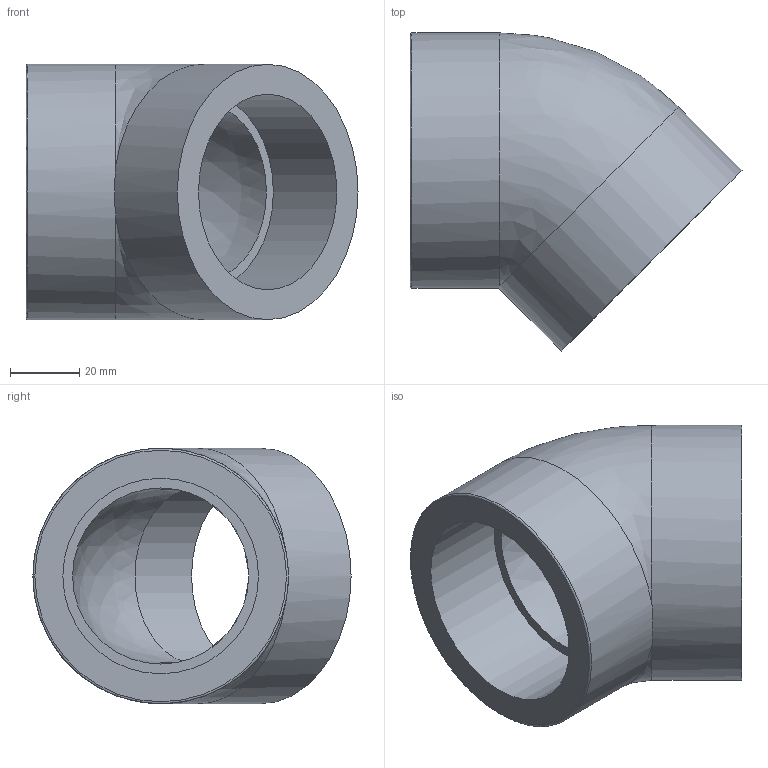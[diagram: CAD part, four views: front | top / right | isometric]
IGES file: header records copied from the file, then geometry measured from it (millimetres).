
Global section: file name: 054501020.ipt; native system: Autodesk Inventor 2015; preprocessor: unknown; author: KIM; date: 20180927.115404; units: millimetre
Bounding box: 96.15 x 92.15 x 74 mm (x, y, z)
Volume: 158372 mm3; surface area: 36987.9 mm2
Topology: 1 solids, 1 shells, 11 faces, 26 edges, 17 vertices
Faces by surface type: revolution 4, plane 4, cylinder 2, bspline 1
Full cylindrical faces by diameter (mm): 74 x2
